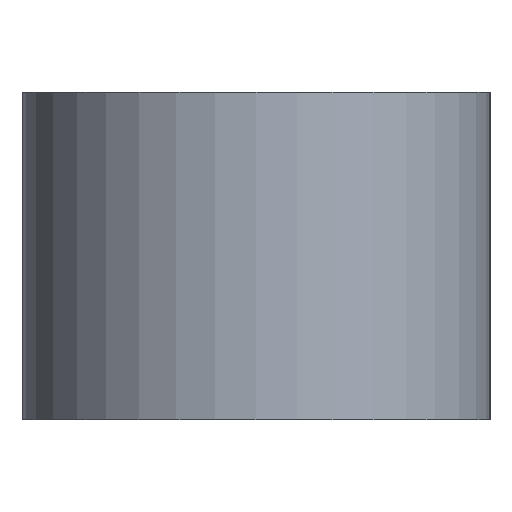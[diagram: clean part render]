
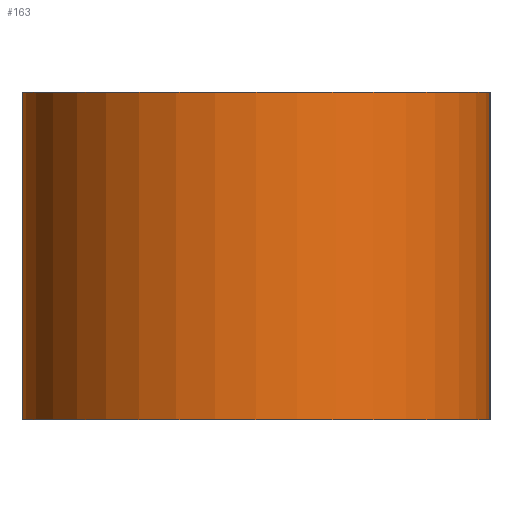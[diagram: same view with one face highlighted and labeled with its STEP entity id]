
A CAD part, left-side view. The second image highlights one B-rep face of the part: STEP entity #163.
In plain terms, the highlighted cylindrical face has radius 5 mm (diameter 10 mm), a full revolution.
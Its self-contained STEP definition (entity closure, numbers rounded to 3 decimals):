
#18=CYLINDRICAL_SURFACE('',#184,5.);
#25=FACE_BOUND('',#62,.T.);
#27=CIRCLE('',#170,5.);
#31=CIRCLE('',#175,5.);
#36=CIRCLE('',#185,5.);
#45=FACE_OUTER_BOUND('',#61,.T.);
#61=EDGE_LOOP('',(#142));
#62=EDGE_LOOP('',(#143,#144,#145,#146));
#66=LINE('',#243,#74);
#72=LINE('',#255,#80);
#74=VECTOR('',#192,10.);
#80=VECTOR('',#200,10.);
#82=VERTEX_POINT('',#240);
#83=VERTEX_POINT('',#242);
#85=VERTEX_POINT('',#248);
#88=VERTEX_POINT('',#253);
#94=VERTEX_POINT('',#277);
#96=EDGE_CURVE('',#82,#83,#66,.T.);
#102=EDGE_CURVE('',#85,#88,#72,.T.);
#103=EDGE_CURVE('',#83,#88,#27,.T.);
#107=EDGE_CURVE('',#85,#82,#31,.T.);
#112=EDGE_CURVE('',#94,#94,#36,.T.);
#142=ORIENTED_EDGE('',*,*,#112,.F.);
#143=ORIENTED_EDGE('',*,*,#107,.F.);
#144=ORIENTED_EDGE('',*,*,#102,.T.);
#145=ORIENTED_EDGE('',*,*,#103,.F.);
#146=ORIENTED_EDGE('',*,*,#96,.F.);
#163=ADVANCED_FACE('',(#45,#25),#18,.T.);
#170=AXIS2_PLACEMENT_3D('',#257,#203,#204);
#175=AXIS2_PLACEMENT_3D('',#264,#213,#214);
#184=AXIS2_PLACEMENT_3D('',#276,#231,#232);
#185=AXIS2_PLACEMENT_3D('',#278,#233,#234);
#192=DIRECTION('',(0.,0.,-1.));
#200=DIRECTION('',(0.,0.,-1.));
#203=DIRECTION('center_axis',(0.,0.,-1.));
#204=DIRECTION('ref_axis',(-1.,0.,0.));
#213=DIRECTION('center_axis',(0.,0.,-1.));
#214=DIRECTION('ref_axis',(-1.,0.,0.));
#231=DIRECTION('center_axis',(0.,0.,1.));
#232=DIRECTION('ref_axis',(-1.,0.,0.));
#233=DIRECTION('center_axis',(0.,0.,1.));
#234=DIRECTION('ref_axis',(-1.,0.,0.));
#240=CARTESIAN_POINT('',(-138.5,-5.,0.));
#242=CARTESIAN_POINT('',(-138.5,-5.,-4.));
#243=CARTESIAN_POINT('',(-138.5,-5.,0.));
#248=CARTESIAN_POINT('',(-138.5,5.,0.));
#253=CARTESIAN_POINT('',(-138.5,5.,-4.));
#255=CARTESIAN_POINT('',(-138.5,5.,0.));
#257=CARTESIAN_POINT('Origin',(-138.5,0.,-4.));
#264=CARTESIAN_POINT('Origin',(-138.5,0.,0.));
#276=CARTESIAN_POINT('Origin',(-138.5,0.,0.));
#277=CARTESIAN_POINT('',(-133.5,0.,3.));
#278=CARTESIAN_POINT('Origin',(-138.5,0.,3.));
